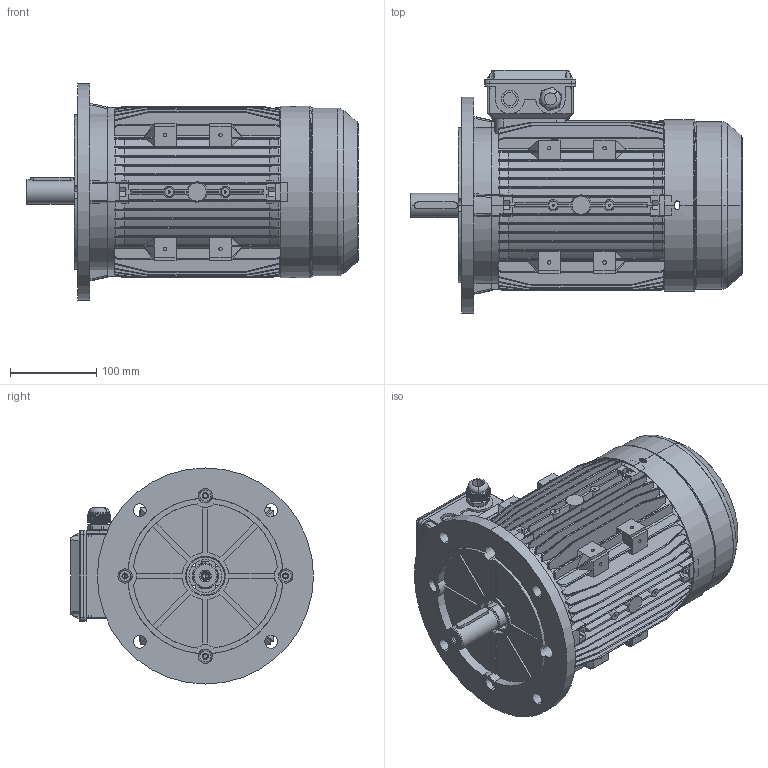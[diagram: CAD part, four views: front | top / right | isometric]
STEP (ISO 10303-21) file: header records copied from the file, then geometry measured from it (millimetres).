
FILE_DESCRIPTION (( 'STEP AP203' ), '1' );
FILE_NAME ('ME100 assembly B5.STEP', '2013-01-11T11:23:04', ( '' ), ( '' ), 'SwSTEP 2.0', 'SolidWorks 2010', '' );
FILE_SCHEMA (( 'CONFIG_CONTROL_DESIGN' ));
Length unit declared in the file: millimetre
Products named in the file (8): M20 cable gland; MS100諉盄碟裔; ME100  assembly B5; ME100儂褲_樓馱; ME100瑞欶_082; ME100傷裔B5; MS100諉盄碟釱; M100-Shaft drive end
Assembly tree (7 placements, depth 2):
  ME100  assembly B5
    ME100儂褲_樓馱
    M100-Shaft drive end
    MS100諉盄碟釱
    ME100瑞欶_082
    M20 cable gland
    MS100諉盄碟裔
    ME100傷裔B5
Bounding box: 384 x 281 x 250 mm (x, y, z)
Volume: 1660850.3 mm3; surface area: 908050 mm2
Topology: 7 solids, 7 shells, 3545 faces, 9588 edges, 6098 vertices
Faces by surface type: plane 1658, cylinder 875, bspline 700, cone 204, torus 108
Entity records: 193296 total; most frequent: CARTESIAN_POINT 107790, ORIENTED_EDGE 19120, DIRECTION 15213, EDGE_CURVE 9560, VERTEX_POINT 6098, VECTOR 5141, LINE 5141, AXIS2_PLACEMENT_3D 5036
